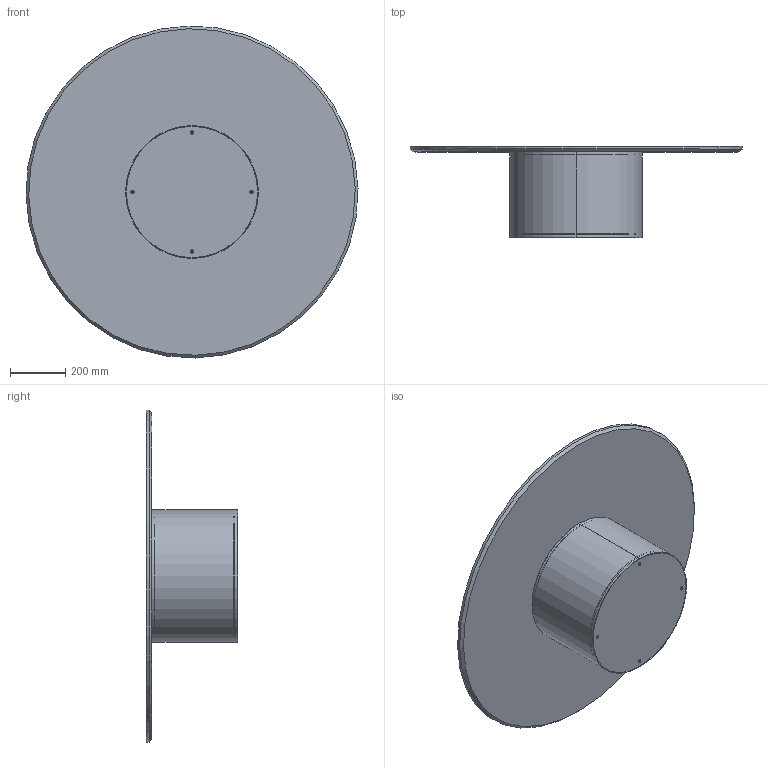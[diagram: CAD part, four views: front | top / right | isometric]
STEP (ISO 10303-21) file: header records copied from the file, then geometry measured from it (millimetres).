
FILE_DESCRIPTION (( 'STEP AP203' ), '1' );
FILE_NAME ('CL14M.STEP', '2024-08-06T10:12:28', ( '' ), ( '' ), 'SwSTEP 2.0', 'SolidWorks 2022', '' );
FILE_SCHEMA (( 'CONFIG_CONTROL_DESIGN' ));
Length unit declared in the file: millimetre
Products named in the file (10): CLB1000000_02-00-Fusto centrale d.48cm; M0X-00- D. piani marmo_D.1200; M0XMXX-00-Piani Rotondi in marmo_D.120 CON M24; M6xXXmm_HEX_M6x20mm HEX; M8xXXmm_M8X30mm; CLB1000000_01-00-Supporto piano fusto D.48cm; CLB1000000_04-00-Supporto Zavorra fusto D.48cm; CL14M; CLB1000000_03-00-Zavorra cilindro low D.48cm; CLB1000000-00-CILINDRO LOW D.48cm BASE GREZZA
Assembly tree (12 placements, depth 3):
  CL14M
    CLB1000000-00-CILINDRO LOW D.48cm BASE GREZZA
      CLB1000000_02-00-Fusto centrale d.48cm
      CLB1000000_03-00-Zavorra cilindro low D.48cm
      CLB1000000_01-00-Supporto piano fusto D.48cm
      CLB1000000_04-00-Supporto Zavorra fusto D.48cm
      M6xXXmm_HEX_M6x20mm HEX  x4
    M0XMXX-00-Piani Rotondi in marmo_D.120 CON M24
      M0X-00- D. piani marmo_D.1200
      M8xXXmm_M8X30mm
Bounding box: 1199.7 x 330 x 1199.7 mm (x, y, z)
Volume: 25650725.2 mm3; surface area: 3904570.5 mm2
Topology: 12 solids, 12 shells, 270 faces, 585 edges, 330 vertices
Faces by surface type: plane 122, cylinder 75, cone 59, torus 12, bspline 2
Entity records: 6172 total; most frequent: CARTESIAN_POINT 1226, DIRECTION 860, ORIENTED_EDGE 738, EDGE_CURVE 369, AXIS2_PLACEMENT_3D 351, VERTEX_POINT 225, EDGE_LOOP 200, FACE_OUTER_BOUND 168
